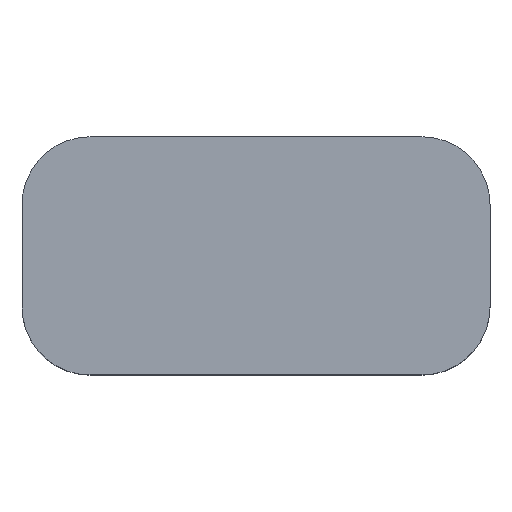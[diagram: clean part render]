
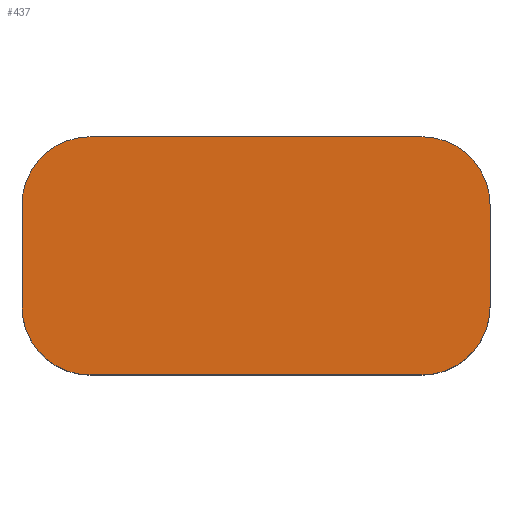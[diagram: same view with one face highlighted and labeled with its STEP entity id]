
A CAD part, top view. The second image highlights one B-rep face of the part: STEP entity #437.
In plain terms, the highlighted planar face has unit normal (0, 0, 1).
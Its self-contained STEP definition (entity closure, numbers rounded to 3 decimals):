
#32 = PLANE('',#33);
#33 = AXIS2_PLACEMENT_3D('',#34,#35,#36);
#34 = CARTESIAN_POINT('',(-0.275,-0.14,0.));
#35 = DIRECTION('',(0.,1.,0.));
#36 = DIRECTION('',(1.,0.,0.));
#57 = VERTEX_POINT('',#58);
#58 = CARTESIAN_POINT('',(-0.195,-0.14,0.18));
#72 = CYLINDRICAL_SURFACE('',#73,0.08);
#73 = AXIS2_PLACEMENT_3D('',#74,#75,#76);
#74 = CARTESIAN_POINT('',(-0.195,-0.06,0.));
#75 = DIRECTION('',(0.,0.,1.));
#76 = DIRECTION('',(0.,-1.,0.));
#84 = EDGE_CURVE('',#57,#85,#87,.T.);
#85 = VERTEX_POINT('',#86);
#86 = CARTESIAN_POINT('',(0.195,-0.14,0.18));
#87 = SURFACE_CURVE('',#88,(#92,#99),.PCURVE_S1.);
#88 = LINE('',#89,#90);
#89 = CARTESIAN_POINT('',(-0.275,-0.14,0.18));
#90 = VECTOR('',#91,1.);
#91 = DIRECTION('',(1.,0.,0.));
#92 = PCURVE('',#32,#93);
#93 = DEFINITIONAL_REPRESENTATION('',(#94),#98);
#94 = LINE('',#95,#96);
#95 = CARTESIAN_POINT('',(0.,-0.18));
#96 = VECTOR('',#97,1.);
#97 = DIRECTION('',(1.,0.));
#98 = ( GEOMETRIC_REPRESENTATION_CONTEXT(2) 
PARAMETRIC_REPRESENTATION_CONTEXT() REPRESENTATION_CONTEXT('2D SPACE',''
  ) );
#99 = PCURVE('',#100,#105);
#100 = PLANE('',#101);
#101 = AXIS2_PLACEMENT_3D('',#102,#103,#104);
#102 = CARTESIAN_POINT('',(0.,0.,0.18));
#103 = DIRECTION('',(0.,0.,1.));
#104 = DIRECTION('',(1.,0.,-0.));
#105 = DEFINITIONAL_REPRESENTATION('',(#106),#110);
#106 = LINE('',#107,#108);
#107 = CARTESIAN_POINT('',(-0.275,-0.14));
#108 = VECTOR('',#109,1.);
#109 = DIRECTION('',(1.,0.));
#110 = ( GEOMETRIC_REPRESENTATION_CONTEXT(2) 
PARAMETRIC_REPRESENTATION_CONTEXT() REPRESENTATION_CONTEXT('2D SPACE',''
  ) );
#126 = CYLINDRICAL_SURFACE('',#127,0.08);
#127 = AXIS2_PLACEMENT_3D('',#128,#129,#130);
#128 = CARTESIAN_POINT('',(0.195,-0.06,0.));
#129 = DIRECTION('',(0.,0.,1.));
#130 = DIRECTION('',(0.,-1.,0.));
#182 = PLANE('',#183);
#183 = AXIS2_PLACEMENT_3D('',#184,#185,#186);
#184 = CARTESIAN_POINT('',(0.275,-0.14,0.));
#185 = DIRECTION('',(-1.,0.,0.));
#186 = DIRECTION('',(0.,1.,0.));
#211 = CYLINDRICAL_SURFACE('',#212,0.08);
#212 = AXIS2_PLACEMENT_3D('',#213,#214,#215);
#213 = CARTESIAN_POINT('',(0.195,0.06,0.));
#214 = DIRECTION('',(0.,0.,1.));
#215 = DIRECTION('',(1.,0.,-0.));
#239 = PLANE('',#240);
#240 = AXIS2_PLACEMENT_3D('',#241,#242,#243);
#241 = CARTESIAN_POINT('',(0.275,0.14,0.));
#242 = DIRECTION('',(0.,-1.,0.));
#243 = DIRECTION('',(-1.,0.,0.));
#268 = CYLINDRICAL_SURFACE('',#269,0.08);
#269 = AXIS2_PLACEMENT_3D('',#270,#271,#272);
#270 = CARTESIAN_POINT('',(-0.195,0.06,0.));
#271 = DIRECTION('',(0.,0.,1.));
#272 = DIRECTION('',(-0.,1.,0.));
#296 = PLANE('',#297);
#297 = AXIS2_PLACEMENT_3D('',#298,#299,#300);
#298 = CARTESIAN_POINT('',(-0.275,0.14,0.));
#299 = DIRECTION('',(1.,0.,-0.));
#300 = DIRECTION('',(0.,-1.,0.));
#339 = VERTEX_POINT('',#340);
#340 = CARTESIAN_POINT('',(-0.275,-0.06,0.18));
#361 = EDGE_CURVE('',#57,#339,#362,.T.);
#362 = SURFACE_CURVE('',#363,(#368,#375),.PCURVE_S1.);
#363 = CIRCLE('',#364,0.08);
#364 = AXIS2_PLACEMENT_3D('',#365,#366,#367);
#365 = CARTESIAN_POINT('',(-0.195,-0.06,0.18));
#366 = DIRECTION('',(-0.,-0.,-1.));
#367 = DIRECTION('',(0.,-1.,0.));
#368 = PCURVE('',#72,#369);
#369 = DEFINITIONAL_REPRESENTATION('',(#370),#374);
#370 = LINE('',#371,#372);
#371 = CARTESIAN_POINT('',(-0.,0.18));
#372 = VECTOR('',#373,1.);
#373 = DIRECTION('',(-1.,0.));
#374 = ( GEOMETRIC_REPRESENTATION_CONTEXT(2) 
PARAMETRIC_REPRESENTATION_CONTEXT() REPRESENTATION_CONTEXT('2D SPACE',''
  ) );
#375 = PCURVE('',#100,#376);
#376 = DEFINITIONAL_REPRESENTATION('',(#377),#385);
#377 = ( BOUNDED_CURVE() B_SPLINE_CURVE(2,(#378,#379,#380,#381,#382,#383
,#384),.UNSPECIFIED.,.T.,.F.) B_SPLINE_CURVE_WITH_KNOTS((1,2,2,2,2,1),(
    -2.094,0.,2.094,4.189,6.283,
8.378),.UNSPECIFIED.) CURVE() GEOMETRIC_REPRESENTATION_ITEM() 
RATIONAL_B_SPLINE_CURVE((1.,0.5,1.,0.5,1.,0.5,1.)) REPRESENTATION_ITEM(
  '') );
#378 = CARTESIAN_POINT('',(-0.195,-0.14));
#379 = CARTESIAN_POINT('',(-0.334,-0.14));
#380 = CARTESIAN_POINT('',(-0.264,-0.02));
#381 = CARTESIAN_POINT('',(-0.195,0.1));
#382 = CARTESIAN_POINT('',(-0.126,-0.02));
#383 = CARTESIAN_POINT('',(-0.056,-0.14));
#384 = CARTESIAN_POINT('',(-0.195,-0.14));
#385 = ( GEOMETRIC_REPRESENTATION_CONTEXT(2) 
PARAMETRIC_REPRESENTATION_CONTEXT() REPRESENTATION_CONTEXT('2D SPACE',''
  ) );
#393 = VERTEX_POINT('',#394);
#394 = CARTESIAN_POINT('',(0.275,-0.06,0.18));
#415 = EDGE_CURVE('',#85,#393,#416,.T.);
#416 = SURFACE_CURVE('',#417,(#422,#429),.PCURVE_S1.);
#417 = CIRCLE('',#418,0.08);
#418 = AXIS2_PLACEMENT_3D('',#419,#420,#421);
#419 = CARTESIAN_POINT('',(0.195,-0.06,0.18));
#420 = DIRECTION('',(0.,0.,1.));
#421 = DIRECTION('',(0.,-1.,0.));
#422 = PCURVE('',#126,#423);
#423 = DEFINITIONAL_REPRESENTATION('',(#424),#428);
#424 = LINE('',#425,#426);
#425 = CARTESIAN_POINT('',(0.,0.18));
#426 = VECTOR('',#427,1.);
#427 = DIRECTION('',(1.,0.));
#428 = ( GEOMETRIC_REPRESENTATION_CONTEXT(2) 
PARAMETRIC_REPRESENTATION_CONTEXT() REPRESENTATION_CONTEXT('2D SPACE',''
  ) );
#429 = PCURVE('',#100,#430);
#430 = DEFINITIONAL_REPRESENTATION('',(#431),#435);
#431 = CIRCLE('',#432,0.08);
#432 = AXIS2_PLACEMENT_2D('',#433,#434);
#433 = CARTESIAN_POINT('',(0.195,-0.06));
#434 = DIRECTION('',(0.,-1.));
#435 = ( GEOMETRIC_REPRESENTATION_CONTEXT(2) 
PARAMETRIC_REPRESENTATION_CONTEXT() REPRESENTATION_CONTEXT('2D SPACE',''
  ) );
#437 = ADVANCED_FACE('',(#438),#100,.T.);
#438 = FACE_BOUND('',#439,.T.);
#439 = EDGE_LOOP('',(#440,#441,#442,#465,#489,#512,#536,#557));
#440 = ORIENTED_EDGE('',*,*,#84,.T.);
#441 = ORIENTED_EDGE('',*,*,#415,.T.);
#442 = ORIENTED_EDGE('',*,*,#443,.T.);
#443 = EDGE_CURVE('',#393,#444,#446,.T.);
#444 = VERTEX_POINT('',#445);
#445 = CARTESIAN_POINT('',(0.275,0.06,0.18));
#446 = SURFACE_CURVE('',#447,(#451,#458),.PCURVE_S1.);
#447 = LINE('',#448,#449);
#448 = CARTESIAN_POINT('',(0.275,-0.14,0.18));
#449 = VECTOR('',#450,1.);
#450 = DIRECTION('',(0.,1.,0.));
#451 = PCURVE('',#100,#452);
#452 = DEFINITIONAL_REPRESENTATION('',(#453),#457);
#453 = LINE('',#454,#455);
#454 = CARTESIAN_POINT('',(0.275,-0.14));
#455 = VECTOR('',#456,1.);
#456 = DIRECTION('',(0.,1.));
#457 = ( GEOMETRIC_REPRESENTATION_CONTEXT(2) 
PARAMETRIC_REPRESENTATION_CONTEXT() REPRESENTATION_CONTEXT('2D SPACE',''
  ) );
#458 = PCURVE('',#182,#459);
#459 = DEFINITIONAL_REPRESENTATION('',(#460),#464);
#460 = LINE('',#461,#462);
#461 = CARTESIAN_POINT('',(0.,-0.18));
#462 = VECTOR('',#463,1.);
#463 = DIRECTION('',(1.,0.));
#464 = ( GEOMETRIC_REPRESENTATION_CONTEXT(2) 
PARAMETRIC_REPRESENTATION_CONTEXT() REPRESENTATION_CONTEXT('2D SPACE',''
  ) );
#465 = ORIENTED_EDGE('',*,*,#466,.T.);
#466 = EDGE_CURVE('',#444,#467,#469,.T.);
#467 = VERTEX_POINT('',#468);
#468 = CARTESIAN_POINT('',(0.195,0.14,0.18));
#469 = SURFACE_CURVE('',#470,(#475,#482),.PCURVE_S1.);
#470 = CIRCLE('',#471,0.08);
#471 = AXIS2_PLACEMENT_3D('',#472,#473,#474);
#472 = CARTESIAN_POINT('',(0.195,0.06,0.18));
#473 = DIRECTION('',(0.,0.,1.));
#474 = DIRECTION('',(0.,-1.,0.));
#475 = PCURVE('',#100,#476);
#476 = DEFINITIONAL_REPRESENTATION('',(#477),#481);
#477 = CIRCLE('',#478,0.08);
#478 = AXIS2_PLACEMENT_2D('',#479,#480);
#479 = CARTESIAN_POINT('',(0.195,0.06));
#480 = DIRECTION('',(0.,-1.));
#481 = ( GEOMETRIC_REPRESENTATION_CONTEXT(2) 
PARAMETRIC_REPRESENTATION_CONTEXT() REPRESENTATION_CONTEXT('2D SPACE',''
  ) );
#482 = PCURVE('',#211,#483);
#483 = DEFINITIONAL_REPRESENTATION('',(#484),#488);
#484 = LINE('',#485,#486);
#485 = CARTESIAN_POINT('',(-1.571,0.18));
#486 = VECTOR('',#487,1.);
#487 = DIRECTION('',(1.,0.));
#488 = ( GEOMETRIC_REPRESENTATION_CONTEXT(2) 
PARAMETRIC_REPRESENTATION_CONTEXT() REPRESENTATION_CONTEXT('2D SPACE',''
  ) );
#489 = ORIENTED_EDGE('',*,*,#490,.T.);
#490 = EDGE_CURVE('',#467,#491,#493,.T.);
#491 = VERTEX_POINT('',#492);
#492 = CARTESIAN_POINT('',(-0.195,0.14,0.18));
#493 = SURFACE_CURVE('',#494,(#498,#505),.PCURVE_S1.);
#494 = LINE('',#495,#496);
#495 = CARTESIAN_POINT('',(0.275,0.14,0.18));
#496 = VECTOR('',#497,1.);
#497 = DIRECTION('',(-1.,0.,0.));
#498 = PCURVE('',#100,#499);
#499 = DEFINITIONAL_REPRESENTATION('',(#500),#504);
#500 = LINE('',#501,#502);
#501 = CARTESIAN_POINT('',(0.275,0.14));
#502 = VECTOR('',#503,1.);
#503 = DIRECTION('',(-1.,0.));
#504 = ( GEOMETRIC_REPRESENTATION_CONTEXT(2) 
PARAMETRIC_REPRESENTATION_CONTEXT() REPRESENTATION_CONTEXT('2D SPACE',''
  ) );
#505 = PCURVE('',#239,#506);
#506 = DEFINITIONAL_REPRESENTATION('',(#507),#511);
#507 = LINE('',#508,#509);
#508 = CARTESIAN_POINT('',(0.,-0.18));
#509 = VECTOR('',#510,1.);
#510 = DIRECTION('',(1.,0.));
#511 = ( GEOMETRIC_REPRESENTATION_CONTEXT(2) 
PARAMETRIC_REPRESENTATION_CONTEXT() REPRESENTATION_CONTEXT('2D SPACE',''
  ) );
#512 = ORIENTED_EDGE('',*,*,#513,.T.);
#513 = EDGE_CURVE('',#491,#514,#516,.T.);
#514 = VERTEX_POINT('',#515);
#515 = CARTESIAN_POINT('',(-0.275,0.06,0.18));
#516 = SURFACE_CURVE('',#517,(#522,#529),.PCURVE_S1.);
#517 = CIRCLE('',#518,0.08);
#518 = AXIS2_PLACEMENT_3D('',#519,#520,#521);
#519 = CARTESIAN_POINT('',(-0.195,0.06,0.18));
#520 = DIRECTION('',(0.,0.,1.));
#521 = DIRECTION('',(0.,-1.,0.));
#522 = PCURVE('',#100,#523);
#523 = DEFINITIONAL_REPRESENTATION('',(#524),#528);
#524 = CIRCLE('',#525,0.08);
#525 = AXIS2_PLACEMENT_2D('',#526,#527);
#526 = CARTESIAN_POINT('',(-0.195,0.06));
#527 = DIRECTION('',(0.,-1.));
#528 = ( GEOMETRIC_REPRESENTATION_CONTEXT(2) 
PARAMETRIC_REPRESENTATION_CONTEXT() REPRESENTATION_CONTEXT('2D SPACE',''
  ) );
#529 = PCURVE('',#268,#530);
#530 = DEFINITIONAL_REPRESENTATION('',(#531),#535);
#531 = LINE('',#532,#533);
#532 = CARTESIAN_POINT('',(-3.142,0.18));
#533 = VECTOR('',#534,1.);
#534 = DIRECTION('',(1.,0.));
#535 = ( GEOMETRIC_REPRESENTATION_CONTEXT(2) 
PARAMETRIC_REPRESENTATION_CONTEXT() REPRESENTATION_CONTEXT('2D SPACE',''
  ) );
#536 = ORIENTED_EDGE('',*,*,#537,.T.);
#537 = EDGE_CURVE('',#514,#339,#538,.T.);
#538 = SURFACE_CURVE('',#539,(#543,#550),.PCURVE_S1.);
#539 = LINE('',#540,#541);
#540 = CARTESIAN_POINT('',(-0.275,0.14,0.18));
#541 = VECTOR('',#542,1.);
#542 = DIRECTION('',(0.,-1.,0.));
#543 = PCURVE('',#100,#544);
#544 = DEFINITIONAL_REPRESENTATION('',(#545),#549);
#545 = LINE('',#546,#547);
#546 = CARTESIAN_POINT('',(-0.275,0.14));
#547 = VECTOR('',#548,1.);
#548 = DIRECTION('',(0.,-1.));
#549 = ( GEOMETRIC_REPRESENTATION_CONTEXT(2) 
PARAMETRIC_REPRESENTATION_CONTEXT() REPRESENTATION_CONTEXT('2D SPACE',''
  ) );
#550 = PCURVE('',#296,#551);
#551 = DEFINITIONAL_REPRESENTATION('',(#552),#556);
#552 = LINE('',#553,#554);
#553 = CARTESIAN_POINT('',(0.,-0.18));
#554 = VECTOR('',#555,1.);
#555 = DIRECTION('',(1.,0.));
#556 = ( GEOMETRIC_REPRESENTATION_CONTEXT(2) 
PARAMETRIC_REPRESENTATION_CONTEXT() REPRESENTATION_CONTEXT('2D SPACE',''
  ) );
#557 = ORIENTED_EDGE('',*,*,#361,.F.);
